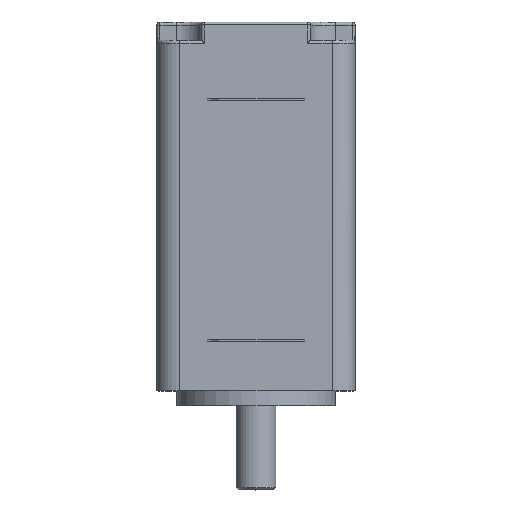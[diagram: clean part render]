
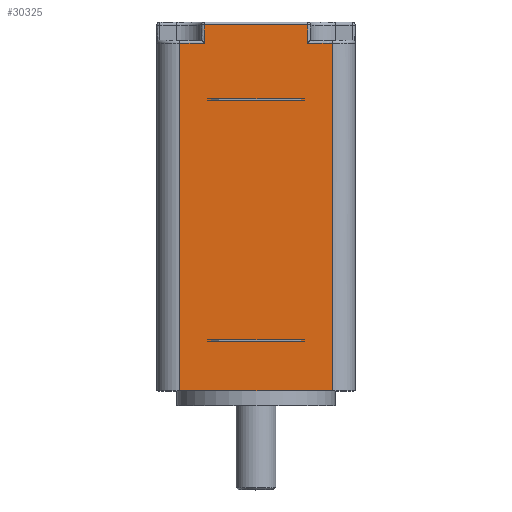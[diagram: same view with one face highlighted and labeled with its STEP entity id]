
A CAD part, top view. The second image highlights one B-rep face of the part: STEP entity #30325.
In plain terms, the highlighted planar face has unit normal (0, 0, 1).
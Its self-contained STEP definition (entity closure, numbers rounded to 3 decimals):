
#20895=CARTESIAN_POINT('',(4.583,0.675,10.));
#20896=VERTEX_POINT('',#20895);
#20904=CARTESIAN_POINT('',(-4.583,0.675,10.));
#20905=VERTEX_POINT('',#20904);
#20906=CARTESIAN_POINT('',(4.583,0.675,10.));
#20907=DIRECTION('',(-1.,0.,0.));
#20908=VECTOR('',#20907,9.165);
#20909=LINE('',#20906,#20908);
#20910=EDGE_CURVE('',#20896,#20905,#20909,.T.);
#21555=CARTESIAN_POINT('',(4.583,0.49,10.));
#21556=VERTEX_POINT('',#21555);
#21557=CARTESIAN_POINT('',(4.583,0.49,10.));
#21558=DIRECTION('',(0.,1.,0.));
#21559=VECTOR('',#21558,0.185);
#21560=LINE('',#21557,#21559);
#21561=EDGE_CURVE('',#21556,#20896,#21560,.T.);
#21604=CARTESIAN_POINT('',(-4.583,0.49,10.));
#21605=VERTEX_POINT('',#21604);
#21639=CARTESIAN_POINT('',(-4.583,0.675,10.));
#21640=DIRECTION('',(0.,-1.,0.));
#21641=VECTOR('',#21640,0.185);
#21642=LINE('',#21639,#21641);
#21643=EDGE_CURVE('',#20905,#21605,#21642,.T.);
#21995=CARTESIAN_POINT('',(-4.583,0.49,10.));
#21996=DIRECTION('',(1.,0.,0.));
#21997=VECTOR('',#21996,9.165);
#21998=LINE('',#21995,#21997);
#21999=EDGE_CURVE('',#21605,#21556,#21998,.T.);
#22430=CARTESIAN_POINT('',(7.7,-4.45,10.));
#22431=VERTEX_POINT('',#22430);
#22439=CARTESIAN_POINT('',(-7.7,-4.45,10.));
#22440=VERTEX_POINT('',#22439);
#22441=CARTESIAN_POINT('',(7.7,-4.45,10.));
#22442=DIRECTION('',(-1.,0.,0.));
#22443=VECTOR('',#22442,15.4);
#22444=LINE('',#22441,#22443);
#22445=EDGE_CURVE('',#22431,#22440,#22444,.T.);
#28591=CARTESIAN_POINT('',(-4.583,24.825,10.));
#28592=VERTEX_POINT('',#28591);
#28600=CARTESIAN_POINT('',(4.583,24.825,10.));
#28601=VERTEX_POINT('',#28600);
#28602=CARTESIAN_POINT('',(-4.583,24.825,10.));
#28603=DIRECTION('',(1.,0.,0.));
#28604=VECTOR('',#28603,9.165);
#28605=LINE('',#28602,#28604);
#28606=EDGE_CURVE('',#28592,#28601,#28605,.T.);
#29460=CARTESIAN_POINT('',(7.7,30.62,10.));
#29461=VERTEX_POINT('',#29460);
#29468=CARTESIAN_POINT('',(7.7,30.62,10.));
#29469=DIRECTION('',(0.,-1.,0.));
#29470=VECTOR('',#29469,35.07);
#29471=LINE('',#29468,#29470);
#29472=EDGE_CURVE('',#29461,#22431,#29471,.T.);
#29489=CARTESIAN_POINT('',(-7.7,30.62,10.));
#29490=VERTEX_POINT('',#29489);
#29507=CARTESIAN_POINT('',(-7.7,-4.45,10.));
#29508=DIRECTION('',(0.,1.,0.));
#29509=VECTOR('',#29508,35.07);
#29510=LINE('',#29507,#29509);
#29511=EDGE_CURVE('',#22440,#29490,#29510,.T.);
#29806=CARTESIAN_POINT('',(-4.583,25.01,10.));
#29807=VERTEX_POINT('',#29806);
#29808=CARTESIAN_POINT('',(-4.583,25.01,10.));
#29809=DIRECTION('',(0.,-1.,0.));
#29810=VECTOR('',#29809,0.185);
#29811=LINE('',#29808,#29810);
#29812=EDGE_CURVE('',#29807,#28592,#29811,.T.);
#29831=CARTESIAN_POINT('',(4.583,25.01,10.));
#29832=VERTEX_POINT('',#29831);
#29849=CARTESIAN_POINT('',(4.583,24.825,10.));
#29850=DIRECTION('',(0.,1.,0.));
#29851=VECTOR('',#29850,0.185);
#29852=LINE('',#29849,#29851);
#29853=EDGE_CURVE('',#28601,#29832,#29852,.T.);
#30044=CARTESIAN_POINT('',(4.583,25.01,10.));
#30045=DIRECTION('',(-1.,0.,0.));
#30046=VECTOR('',#30045,9.165);
#30047=LINE('',#30044,#30046);
#30048=EDGE_CURVE('',#29832,#29807,#30047,.T.);
#30265=CARTESIAN_POINT('',(0.,13.65,10.));
#30266=DIRECTION('',(-1.,0.,0.));
#30267=DIRECTION('',(0.,0.,1.));
#30268=AXIS2_PLACEMENT_3D('',#30265,#30267,#30266);
#30269=PLANE('',#30268);
#30270=CARTESIAN_POINT('',(5.2,30.62,10.));
#30271=VERTEX_POINT('',#30270);
#30272=CARTESIAN_POINT('',(7.7,30.62,10.));
#30273=DIRECTION('',(-1.,0.,0.));
#30274=VECTOR('',#30273,2.5);
#30275=LINE('',#30272,#30274);
#30276=EDGE_CURVE('',#29461,#30271,#30275,.T.);
#30277=ORIENTED_EDGE('E2763',*,*,#30276,.T.);
#30278=CARTESIAN_POINT('',(5.2,32.45,10.));
#30279=VERTEX_POINT('',#30278);
#30280=CARTESIAN_POINT('',(5.2,30.62,10.));
#30281=DIRECTION('',(0.,1.,0.));
#30282=VECTOR('',#30281,1.83);
#30283=LINE('',#30280,#30282);
#30284=EDGE_CURVE('',#30271,#30279,#30283,.T.);
#30285=ORIENTED_EDGE('E2764',*,*,#30284,.T.);
#30286=CARTESIAN_POINT('',(-5.2,32.45,10.));
#30287=VERTEX_POINT('',#30286);
#30288=CARTESIAN_POINT('',(5.2,32.45,10.));
#30289=DIRECTION('',(-1.,0.,0.));
#30290=VECTOR('',#30289,10.4);
#30291=LINE('',#30288,#30290);
#30292=EDGE_CURVE('',#30279,#30287,#30291,.T.);
#30293=ORIENTED_EDGE('E2765',*,*,#30292,.T.);
#30294=CARTESIAN_POINT('',(-5.2,30.62,10.));
#30295=VERTEX_POINT('',#30294);
#30296=CARTESIAN_POINT('',(-5.2,32.45,10.));
#30297=DIRECTION('',(0.,-1.,0.));
#30298=VECTOR('',#30297,1.83);
#30299=LINE('',#30296,#30298);
#30300=EDGE_CURVE('',#30287,#30295,#30299,.T.);
#30301=ORIENTED_EDGE('E2766',*,*,#30300,.T.);
#30302=CARTESIAN_POINT('',(-5.2,30.62,10.));
#30303=DIRECTION('',(-1.,0.,0.));
#30304=VECTOR('',#30303,2.5);
#30305=LINE('',#30302,#30304);
#30306=EDGE_CURVE('',#30295,#29490,#30305,.T.);
#30307=ORIENTED_EDGE('E2767',*,*,#30306,.T.);
#30308=ORIENTED_EDGE('E2767',*,*,#29511,.F.);
#30309=ORIENTED_EDGE('E2767',*,*,#22445,.F.);
#30310=ORIENTED_EDGE('E2767',*,*,#29472,.F.);
#30311=EDGE_LOOP('',(#30277,#30285,#30293,#30301,#30307,#30308,#30309,#30310));
#30312=FACE_OUTER_BOUND('',#30311,.T.);
#30313=ORIENTED_EDGE('',*,*,#20910,.F.);
#30314=ORIENTED_EDGE('',*,*,#21561,.F.);
#30315=ORIENTED_EDGE('',*,*,#21999,.F.);
#30316=ORIENTED_EDGE('',*,*,#21643,.F.);
#30317=EDGE_LOOP('',(#30313,#30314,#30315,#30316));
#30318=FACE_BOUND('',#30317,.T.);
#30319=ORIENTED_EDGE('',*,*,#28606,.F.);
#30320=ORIENTED_EDGE('',*,*,#29812,.F.);
#30321=ORIENTED_EDGE('',*,*,#30048,.F.);
#30322=ORIENTED_EDGE('',*,*,#29853,.F.);
#30323=EDGE_LOOP('',(#30319,#30320,#30321,#30322));
#30324=FACE_BOUND('',#30323,.T.);
#30325=ADVANCED_FACE('F796',(#30312,#30318,#30324),#30269,.T.);
